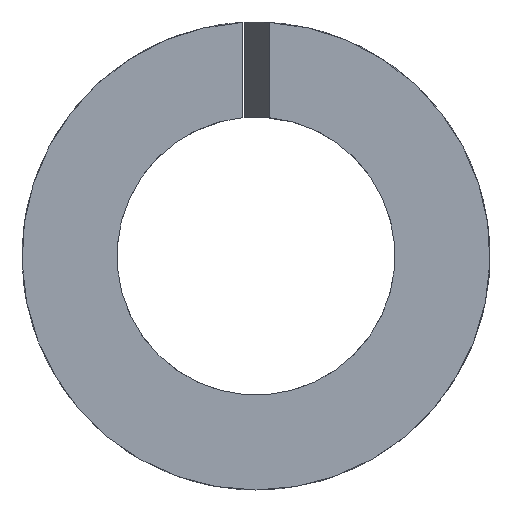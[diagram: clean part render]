
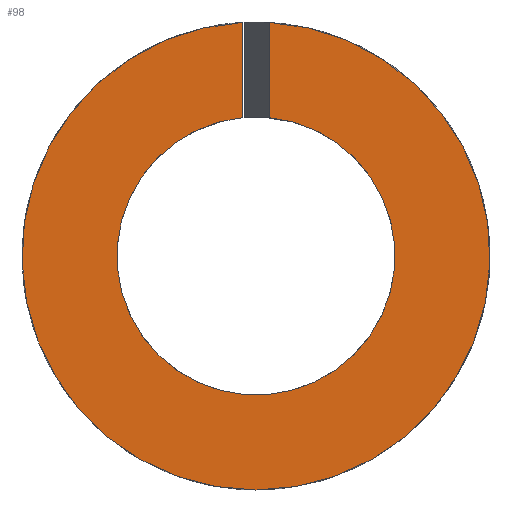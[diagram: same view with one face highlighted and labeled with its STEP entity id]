
A CAD part, left-side view. The second image highlights one B-rep face of the part: STEP entity #98.
In plain terms, the highlighted planar face has unit normal (-1, 0, 0).
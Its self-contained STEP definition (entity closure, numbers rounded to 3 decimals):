
#19=CIRCLE('',#132,2.05);
#20=CIRCLE('',#134,3.45);
#26=FACE_OUTER_BOUND('',#32,.T.);
#32=EDGE_LOOP('',(#85,#86,#87,#88));
#34=LINE('',#179,#38);
#35=LINE('',#185,#39);
#38=VECTOR('',#145,10.);
#39=VECTOR('',#150,10.);
#46=VERTEX_POINT('',#173);
#48=VERTEX_POINT('',#177);
#49=VERTEX_POINT('',#181);
#51=VERTEX_POINT('',#184);
#56=EDGE_CURVE('',#46,#48,#34,.T.);
#58=EDGE_CURVE('',#51,#49,#35,.T.);
#63=EDGE_CURVE('',#49,#46,#19,.T.);
#64=EDGE_CURVE('',#48,#51,#20,.T.);
#85=ORIENTED_EDGE('',*,*,#58,.T.);
#86=ORIENTED_EDGE('',*,*,#63,.T.);
#87=ORIENTED_EDGE('',*,*,#56,.T.);
#88=ORIENTED_EDGE('',*,*,#64,.T.);
#92=PLANE('',#135);
#98=ADVANCED_FACE('',(#26),#92,.T.);
#132=AXIS2_PLACEMENT_3D('',#193,#162,#163);
#134=AXIS2_PLACEMENT_3D('',#195,#166,#167);
#135=AXIS2_PLACEMENT_3D('',#196,#168,#169);
#145=DIRECTION('',(0.,0.,1.));
#150=DIRECTION('',(0.,0.,-1.));
#162=DIRECTION('center_axis',(1.,0.,0.));
#163=DIRECTION('ref_axis',(0.,-1.,0.));
#166=DIRECTION('center_axis',(-1.,0.,0.));
#167=DIRECTION('ref_axis',(0.,-1.,0.));
#168=DIRECTION('center_axis',(-1.,0.,0.));
#169=DIRECTION('ref_axis',(0.,0.,1.));
#173=CARTESIAN_POINT('',(0.,0.2,2.04));
#177=CARTESIAN_POINT('',(0.,0.2,3.444));
#179=CARTESIAN_POINT('',(0.,0.2,0.));
#181=CARTESIAN_POINT('',(0.,-0.2,2.04));
#184=CARTESIAN_POINT('',(0.,-0.2,3.444));
#185=CARTESIAN_POINT('',(0.,-0.2,0.));
#193=CARTESIAN_POINT('Origin',(0.,0.,0.));
#195=CARTESIAN_POINT('Origin',(0.,0.,0.));
#196=CARTESIAN_POINT('Origin',(0.,0.,0.));
